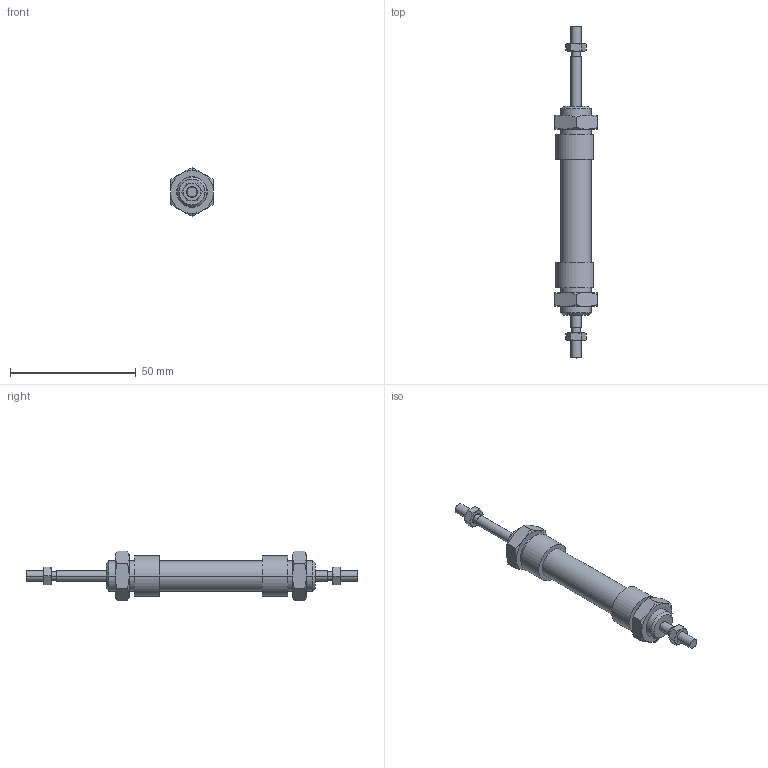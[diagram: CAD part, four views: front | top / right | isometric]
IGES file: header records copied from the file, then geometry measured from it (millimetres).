
Global section: file name: No Iges File Name specified; native system: AutoDesk Inventor R6.0; preprocessor: AutoDesk Inventor Iges Exporter R6.0; author: No Author specified; organization: No Organization specified; date: 20030403.071839; units: millimetre
Bounding box: 17 x 132 x 19.63 mm (x, y, z)
Volume: 13348 mm3; surface area: 8564.8 mm2
Topology: 6 solids, 6 shells, 172 faces, 374 edges, 220 vertices
Faces by surface type: cone 68, plane 46, bspline 32, cylinder 20, revolution 6
